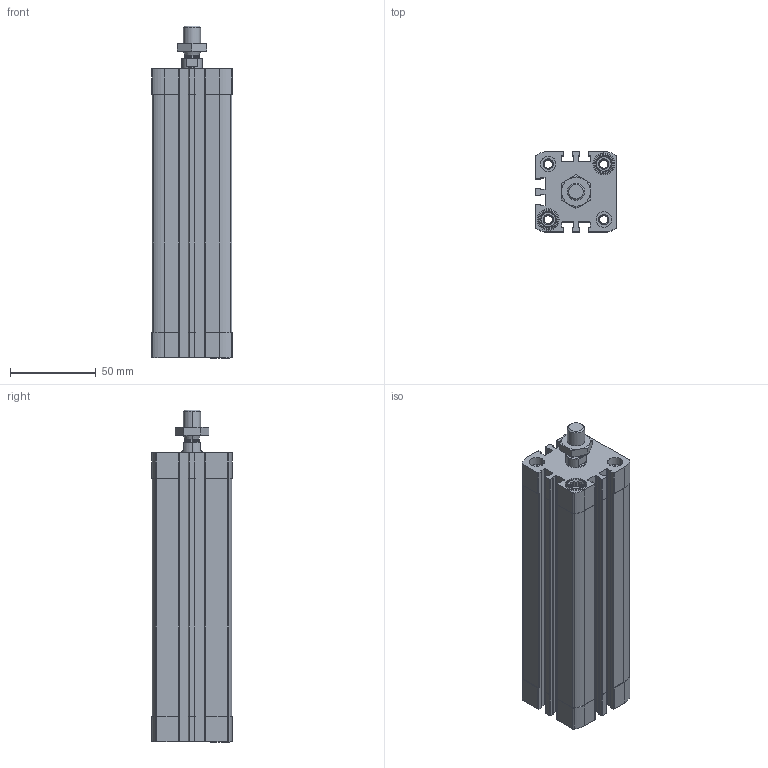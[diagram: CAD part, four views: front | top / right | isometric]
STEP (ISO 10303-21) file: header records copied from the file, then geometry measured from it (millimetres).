
FILE_DESCRIPTION (( 'STEP AP203' ), '1' );
FILE_NAME ('CCN32-125M.STEP', '2017-03-29T13:26:51', ( '' ), ( '' ), 'SwSTEP 2.0', 'SolidWorks 2016', '' );
FILE_SCHEMA (( 'CONFIG_CONTROL_DESIGN' ));
Length unit declared in the file: millimetre
Products named in the file (4): CCN-125---(Z); CCN-125_(KS); _DIN-439-B - M10x1.25(F); CCN32-125M
Assembly tree (3 placements, depth 2):
  CCN32-125M
    CCN-125---(Z)
    CCN-125_(KS)
    _DIN-439-B - M10x1.25(F)
Bounding box: 47 x 47 x 194 mm (x, y, z)
Volume: 222647 mm3; surface area: 87926.5 mm2
Topology: 3 solids, 3 shells, 499 faces, 1334 edges, 872 vertices
Faces by surface type: plane 275, cylinder 172, cone 48, bspline 4
Entity records: 16246 total; most frequent: CARTESIAN_POINT 3119, DIRECTION 2720, ORIENTED_EDGE 2668, EDGE_CURVE 1334, AXIS2_PLACEMENT_3D 997, VERTEX_POINT 872, LINE 726, VECTOR 726
